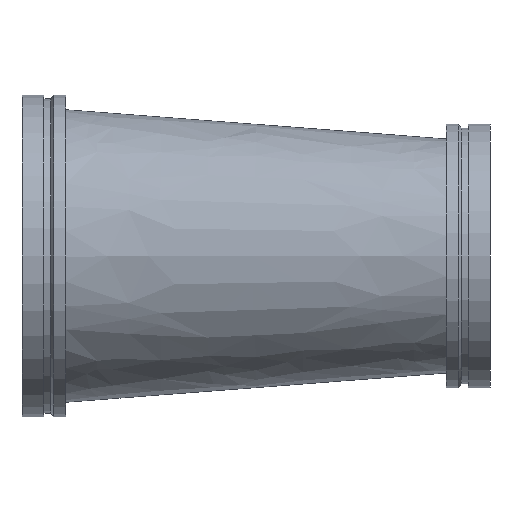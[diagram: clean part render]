
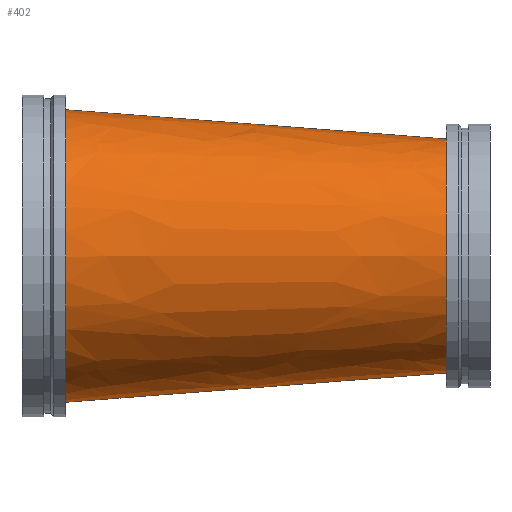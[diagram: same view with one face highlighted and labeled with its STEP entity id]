
A CAD part, front view. The second image highlights one B-rep face of the part: STEP entity #402.
In plain terms, the highlighted free-form (B-spline) face has degree [1, 2] with [2, 9] control points.
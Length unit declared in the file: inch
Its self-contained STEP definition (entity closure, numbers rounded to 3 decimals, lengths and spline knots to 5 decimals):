
#46=B_SPLINE_CURVE_WITH_KNOTS('',1,(#777,#778),.UNSPECIFIED.,.F.,.F.,(2,
2),(-2.61565,-0.00045),.UNSPECIFIED.);
#48=(
BOUNDED_SURFACE()
B_SPLINE_SURFACE(1,2,((#759,#760,#761,#762,#763,#764,#765,#766,#767),(#768,
#769,#770,#771,#772,#773,#774,#775,#776)),.UNSPECIFIED.,.F.,.T.,.F.)
B_SPLINE_SURFACE_WITH_KNOTS((2,2),(3,2,2,2,3),(-0.07647,2.67647),
(-3.14159,-1.5708,0.,1.5708,3.14159),
 .UNSPECIFIED.)
GEOMETRIC_REPRESENTATION_ITEM()
RATIONAL_B_SPLINE_SURFACE(((1.,0.707,1.,0.707,1.,
0.707,1.,0.707,1.),(1.,0.707,1.,0.707,
1.,0.707,1.,0.707,1.)))
REPRESENTATION_ITEM('')
SURFACE()
);
#98=FACE_OUTER_BOUND('',#120,.T.);
#120=EDGE_LOOP('',(#333,#334,#335,#336,#337,#338));
#129=CIRCLE('',#430,8.);
#130=CIRCLE('',#431,8.);
#153=CIRCLE('',#465,10.);
#154=CIRCLE('',#466,10.);
#169=VERTEX_POINT('',#652);
#170=VERTEX_POINT('',#653);
#193=VERTEX_POINT('',#719);
#194=VERTEX_POINT('',#720);
#209=EDGE_CURVE('',#169,#170,#129,.T.);
#210=EDGE_CURVE('',#170,#169,#130,.T.);
#241=EDGE_CURVE('',#193,#194,#153,.T.);
#242=EDGE_CURVE('',#194,#193,#154,.T.);
#252=EDGE_CURVE('',#170,#194,#46,.T.);
#333=ORIENTED_EDGE('',*,*,#209,.T.);
#334=ORIENTED_EDGE('',*,*,#252,.T.);
#335=ORIENTED_EDGE('',*,*,#242,.T.);
#336=ORIENTED_EDGE('',*,*,#241,.T.);
#337=ORIENTED_EDGE('',*,*,#252,.F.);
#338=ORIENTED_EDGE('',*,*,#210,.T.);
#402=ADVANCED_FACE('',(#98),#48,.F.);
#430=AXIS2_PLACEMENT_3D('',#654,#504,#505);
#431=AXIS2_PLACEMENT_3D('',#655,#506,#507);
#465=AXIS2_PLACEMENT_3D('',#721,#582,#583);
#466=AXIS2_PLACEMENT_3D('',#722,#584,#585);
#504=DIRECTION('center_axis',(-1.,0.,0.));
#505=DIRECTION('ref_axis',(0.,-1.,0.));
#506=DIRECTION('center_axis',(-1.,0.,0.));
#507=DIRECTION('ref_axis',(0.,-1.,0.));
#582=DIRECTION('center_axis',(1.,0.,0.));
#583=DIRECTION('ref_axis',(0.,1.,0.));
#584=DIRECTION('center_axis',(1.,0.,0.));
#585=DIRECTION('ref_axis',(0.,1.,0.));
#652=CARTESIAN_POINT('',(29.,-10.,0.));
#653=CARTESIAN_POINT('',(29.,-2.04679,7.99986));
#654=CARTESIAN_POINT('Origin',(29.,-2.,0.));
#655=CARTESIAN_POINT('Origin',(29.,-2.,0.));
#719=CARTESIAN_POINT('',(3.,10.,0.));
#720=CARTESIAN_POINT('',(3.,-0.05848,9.99983));
#721=CARTESIAN_POINT('Origin',(3.,0.,0.));
#722=CARTESIAN_POINT('Origin',(3.,0.,0.));
#759=CARTESIAN_POINT('Ctrl Pts',(2.23527,0.,
10.05865));
#760=CARTESIAN_POINT('Ctrl Pts',(1.47054,-10.,10.05865));
#761=CARTESIAN_POINT('Ctrl Pts',(1.47054,-10.,0.));
#762=CARTESIAN_POINT('Ctrl Pts',(1.47054,-10.,-10.05865));
#763=CARTESIAN_POINT('Ctrl Pts',(2.23527,0.,
-10.05865));
#764=CARTESIAN_POINT('Ctrl Pts',(3.,10.,-10.05865));
#765=CARTESIAN_POINT('Ctrl Pts',(3.,10.,0.));
#766=CARTESIAN_POINT('Ctrl Pts',(3.,10.,10.05865));
#767=CARTESIAN_POINT('Ctrl Pts',(2.23527,0.,
10.05865));
#768=CARTESIAN_POINT('Ctrl Pts',(29.60467,-2.09303,7.95335));
#769=CARTESIAN_POINT('Ctrl Pts',(29.,-10.,7.95335));
#770=CARTESIAN_POINT('Ctrl Pts',(29.,-10.,0.));
#771=CARTESIAN_POINT('Ctrl Pts',(29.,-10.,-7.95335));
#772=CARTESIAN_POINT('Ctrl Pts',(29.60467,-2.09303,-7.95335));
#773=CARTESIAN_POINT('Ctrl Pts',(30.20934,5.81395,-7.95335));
#774=CARTESIAN_POINT('Ctrl Pts',(30.20934,5.81395,0.));
#775=CARTESIAN_POINT('Ctrl Pts',(30.20934,5.81395,7.95335));
#776=CARTESIAN_POINT('Ctrl Pts',(29.60467,-2.09303,7.95335));
#777=CARTESIAN_POINT('Ctrl Pts',(29.,-2.04679,7.99986));
#778=CARTESIAN_POINT('Ctrl Pts',(3.,-0.05848,9.99983));
